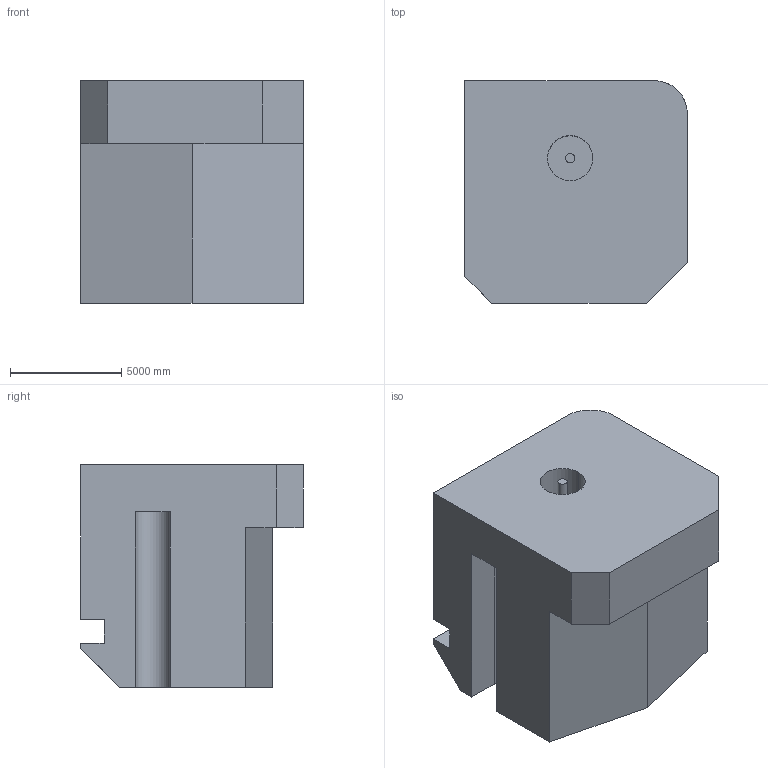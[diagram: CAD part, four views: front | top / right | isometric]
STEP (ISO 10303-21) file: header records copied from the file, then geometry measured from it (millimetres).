
FILE_DESCRIPTION (( 'STEP AP203' ), '1' );
FILE_NAME ('759.STEP', '2022-07-29T13:00:24', ( 'user' ), ( '' ), 'SwSTEP 2.0', 'SolidWorks 2021', '' );
FILE_SCHEMA (( 'CONFIG_CONTROL_DESIGN' ));
Length unit declared in the file: centimetre
Products named in the file (1): 759
Bounding box: 10000 x 10000 x 10000 mm (x, y, z)
Volume: 781850846528.1 mm3; surface area: 616012630.5 mm2
Topology: 1 solids, 1 shells, 27 faces, 69 edges, 46 vertices
Faces by surface type: plane 21, cylinder 6
Entity records: 893 total; most frequent: CARTESIAN_POINT 146, ORIENTED_EDGE 138, DIRECTION 137, EDGE_CURVE 69, VECTOR 55, LINE 55, VERTEX_POINT 46, AXIS2_PLACEMENT_3D 41
